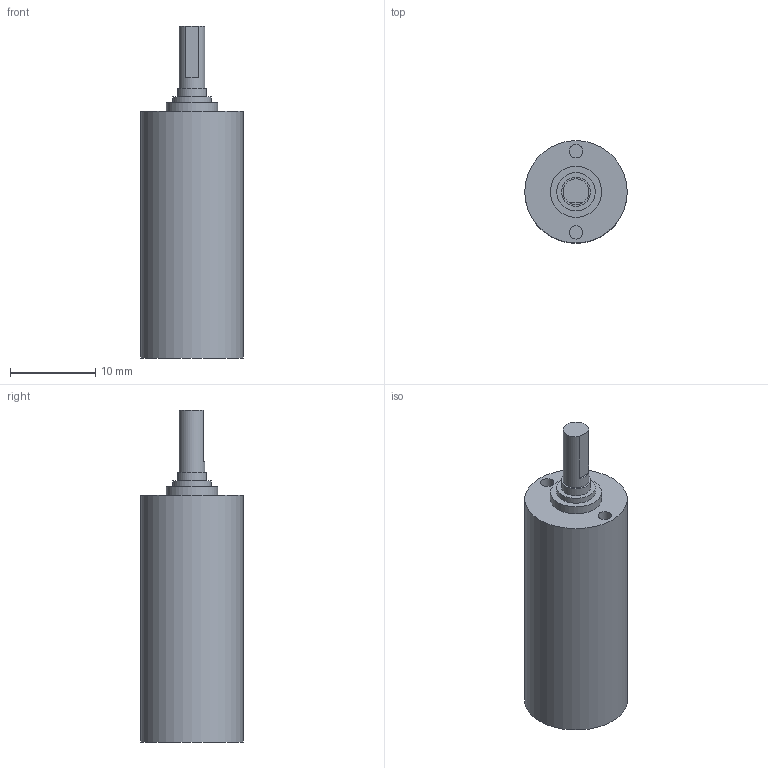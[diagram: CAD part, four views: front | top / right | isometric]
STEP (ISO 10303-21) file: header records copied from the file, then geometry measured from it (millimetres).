
FILE_DESCRIPTION((''),'2;1');
FILE_NAME('G:\Disegni\Progetti\D8500÷D8599\D8514\Riduttori\E - Riduttori STEP - SBZ\12_4 STEP\12_4 4stage.stp','2012-05-24T15:48:00',('bonazzoli'),(''),'Autodesk Inventor 2012','Autodesk Inventor 2012','');
FILE_SCHEMA(('AUTOMOTIVE_DESIGN { 1 0 10303 214 1 1 1 1 }'));
Length unit declared in the file: millimetre
Products named in the file (1): 12_4 4stage
Bounding box: 12 x 12 x 38.9 mm (x, y, z)
Volume: 3359.7 mm3; surface area: 1443.2 mm2
Topology: 1 solids, 1 shells, 17 faces, 27 edges, 18 vertices
Faces by surface type: plane 10, cylinder 7
Full cylindrical faces by diameter (mm): 1.567 x2, 3 x1, 3.4 x1, 4.5 x1, 6 x1, 12 x1
Entity records: 378 total; most frequent: DIRECTION 70, CARTESIAN_POINT 54, ORIENTED_EDGE 38, AXIS2_PLACEMENT_3D 33, EDGE_LOOP 30, EDGE_CURVE 19, VERTEX_POINT 17, FACE_OUTER_BOUND 17
